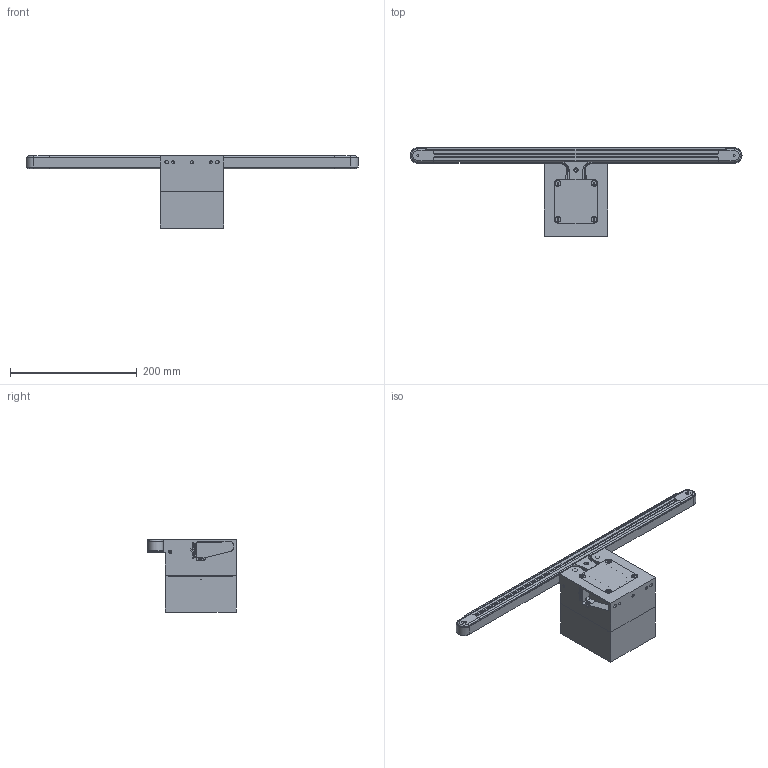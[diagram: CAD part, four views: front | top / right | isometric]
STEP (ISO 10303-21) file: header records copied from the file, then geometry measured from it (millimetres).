
FILE_DESCRIPTION(/* description */ (''),/* implementation_level */ '2;1');
FILE_NAME(/* name */ 'G:\DATEN\CAD\Förderband\Marketing\3D-Modelle (Standard)\FR-20-20-M\FR-20-20-M-500-K.stp',/* time_stamp */ '2019-03-27T16:08:06+01:00',/* author */ ('pia.schaefer'),/* organization */ (''),/* preprocessor_version */ 'ST-DEVELOPER v17',/* originating_system */ 'Autodesk Inventor 2019',/* authorisation */ '');
FILE_SCHEMA (('AUTOMOTIVE_DESIGN { 1 0 10303 214 3 1 1 }'));
Length unit declared in the file: millimetre
Products named in the file (1): FR-20-20-M-500-K
Bounding box: 524.6 x 139.8 x 114 mm (x, y, z)
Volume: 1373869.1 mm3; surface area: 283018.1 mm2
Topology: 33 solids, 36 shells, 970 faces, 2643 edges, 1785 vertices
Faces by surface type: plane 521, cylinder 232, bspline 124, cone 77, torus 16
Full cylindrical faces by diameter (mm): 1.6 x4, 2.459 x2, 3 x2, 3.5 x4, 4 x6, 4.134 x6, 4.3 x1, 4.5 x4, 4.917 x3, 5 x10, 5.2 x2, 5.5 x2, 6.5 x1, 6.647 x1, 6.773 x1, 7 x2, 8 x14, 8.773 x1, 9.43 x2, 9.6 x2, 10 x5, 11 x1, 22 x2
Entity records: 33301 total; most frequent: CARTESIAN_POINT 8214, ORIENTED_EDGE 5242, DIRECTION 4629, EDGE_CURVE 2621, VERTEX_POINT 1785, AXIS2_PLACEMENT_3D 1551, LINE 1527, VECTOR 1527
